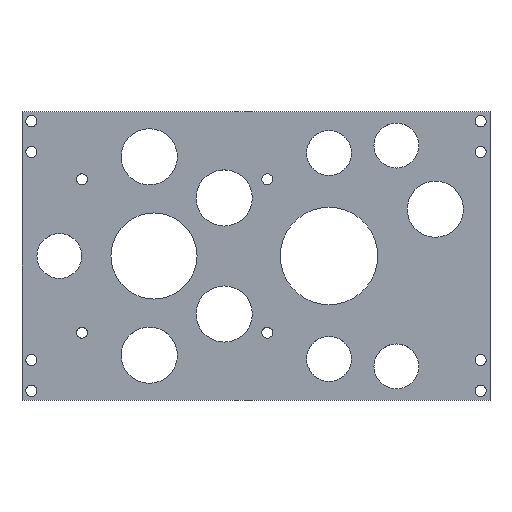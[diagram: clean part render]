
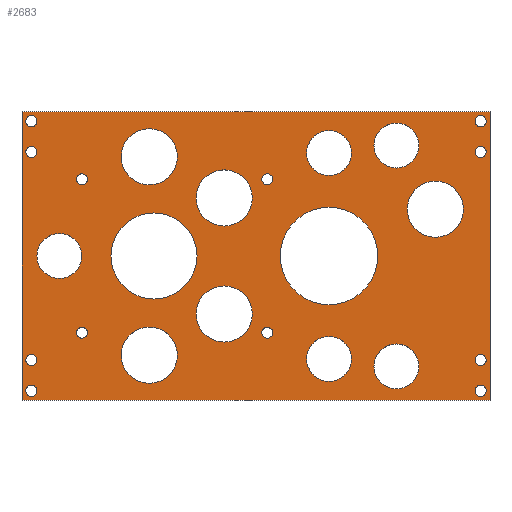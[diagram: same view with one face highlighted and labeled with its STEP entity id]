
A CAD part, top view. The second image highlights one B-rep face of the part: STEP entity #2683.
In plain terms, the highlighted planar face has unit normal (0, 0, 1).
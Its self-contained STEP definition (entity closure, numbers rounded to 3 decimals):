
#1003 = VERTEX_POINT('',#1004);
#1004 = CARTESIAN_POINT('',(62.5,38.5,8.));
#1010 = EDGE_CURVE('',#1003,#1011,#1013,.T.);
#1011 = VERTEX_POINT('',#1012);
#1012 = CARTESIAN_POINT('',(62.5,-38.5,8.));
#1013 = LINE('',#1014,#1015);
#1014 = CARTESIAN_POINT('',(62.5,50.,8.));
#1015 = VECTOR('',#1016,1.);
#1016 = DIRECTION('',(0.,-1.,0.));
#1033 = EDGE_CURVE('',#1034,#1011,#1036,.T.);
#1034 = VERTEX_POINT('',#1035);
#1035 = CARTESIAN_POINT('',(-62.5,-38.5,8.));
#1036 = LINE('',#1037,#1038);
#1037 = CARTESIAN_POINT('',(5.,-38.5,8.));
#1038 = VECTOR('',#1039,1.);
#1039 = DIRECTION('',(1.,0.,0.));
#1128 = EDGE_CURVE('',#1034,#1129,#1131,.T.);
#1129 = VERTEX_POINT('',#1130);
#1130 = CARTESIAN_POINT('',(-62.5,38.5,8.));
#1131 = LINE('',#1132,#1133);
#1132 = CARTESIAN_POINT('',(-62.5,-50.,8.));
#1133 = VECTOR('',#1134,1.);
#1134 = DIRECTION('',(0.,1.,0.));
#1389 = EDGE_CURVE('',#1003,#1129,#1390,.T.);
#1390 = LINE('',#1391,#1392);
#1391 = CARTESIAN_POINT('',(-5.,38.5,8.));
#1392 = VECTOR('',#1393,1.);
#1393 = DIRECTION('',(-1.,0.,0.));
#1403 = EDGE_CURVE('',#1404,#1404,#1406,.T.);
#1404 = VERTEX_POINT('',#1405);
#1405 = CARTESIAN_POINT('',(61.5,-36.,8.));
#1406 = CIRCLE('',#1407,1.5);
#1407 = AXIS2_PLACEMENT_3D('',#1408,#1409,#1410);
#1408 = CARTESIAN_POINT('',(60.,-36.,8.));
#1409 = DIRECTION('',(0.,0.,-1.));
#1410 = DIRECTION('',(1.,0.,0.));
#1429 = VERTEX_POINT('',#1430);
#1430 = CARTESIAN_POINT('',(43.5,-29.5,8.));
#1436 = EDGE_CURVE('',#1429,#1429,#1437,.T.);
#1437 = CIRCLE('',#1438,6.);
#1438 = AXIS2_PLACEMENT_3D('',#1439,#1440,#1441);
#1439 = CARTESIAN_POINT('',(37.5,-29.5,8.));
#1440 = DIRECTION('',(0.,0.,-1.));
#1441 = DIRECTION('',(1.,0.,0.));
#1454 = VERTEX_POINT('',#1455);
#1455 = CARTESIAN_POINT('',(61.5,-27.8,8.));
#1460 = EDGE_CURVE('',#1454,#1454,#1461,.T.);
#1461 = CIRCLE('',#1462,1.5);
#1462 = AXIS2_PLACEMENT_3D('',#1463,#1464,#1465);
#1463 = CARTESIAN_POINT('',(60.,-27.8,8.));
#1464 = DIRECTION('',(0.,0.,-1.));
#1465 = DIRECTION('',(1.,0.,0.));
#1574 = VERTEX_POINT('',#1575);
#1575 = CARTESIAN_POINT('',(25.5,-27.5,8.));
#1581 = EDGE_CURVE('',#1574,#1574,#1582,.T.);
#1582 = CIRCLE('',#1583,6.);
#1583 = AXIS2_PLACEMENT_3D('',#1584,#1585,#1586);
#1584 = CARTESIAN_POINT('',(19.5,-27.5,8.));
#1585 = DIRECTION('',(0.,0.,-1.));
#1586 = DIRECTION('',(1.,0.,0.));
#1695 = VERTEX_POINT('',#1696);
#1696 = CARTESIAN_POINT('',(-21.,-26.5,8.));
#1702 = EDGE_CURVE('',#1695,#1695,#1703,.T.);
#1703 = CIRCLE('',#1704,7.5);
#1704 = AXIS2_PLACEMENT_3D('',#1705,#1706,#1707);
#1705 = CARTESIAN_POINT('',(-28.5,-26.5,8.));
#1706 = DIRECTION('',(0.,0.,-1.));
#1707 = DIRECTION('',(1.,0.,0.));
#1718 = EDGE_CURVE('',#1719,#1719,#1721,.T.);
#1719 = VERTEX_POINT('',#1720);
#1720 = CARTESIAN_POINT('',(-58.5,-36.,8.));
#1721 = CIRCLE('',#1722,1.5);
#1722 = AXIS2_PLACEMENT_3D('',#1723,#1724,#1725);
#1723 = CARTESIAN_POINT('',(-60.,-36.,8.));
#1724 = DIRECTION('',(0.,0.,-1.));
#1725 = DIRECTION('',(1.,0.,0.));
#1840 = VERTEX_POINT('',#1841);
#1841 = CARTESIAN_POINT('',(-58.5,-27.8,8.));
#1846 = EDGE_CURVE('',#1840,#1840,#1847,.T.);
#1847 = CIRCLE('',#1848,1.5);
#1848 = AXIS2_PLACEMENT_3D('',#1849,#1850,#1851);
#1849 = CARTESIAN_POINT('',(-60.,-27.8,8.));
#1850 = DIRECTION('',(0.,0.,-1.));
#1851 = DIRECTION('',(1.,0.,0.));
#1960 = VERTEX_POINT('',#1961);
#1961 = CARTESIAN_POINT('',(-1.,-15.5,8.));
#1967 = EDGE_CURVE('',#1960,#1960,#1968,.T.);
#1968 = CIRCLE('',#1969,7.5);
#1969 = AXIS2_PLACEMENT_3D('',#1970,#1971,#1972);
#1970 = CARTESIAN_POINT('',(-8.5,-15.5,8.));
#1971 = DIRECTION('',(0.,0.,-1.));
#1972 = DIRECTION('',(1.,0.,0.));
#1985 = VERTEX_POINT('',#1986);
#1986 = CARTESIAN_POINT('',(55.4,12.5,8.));
#1992 = EDGE_CURVE('',#1985,#1985,#1993,.T.);
#1993 = CIRCLE('',#1994,7.5);
#1994 = AXIS2_PLACEMENT_3D('',#1995,#1996,#1997);
#1995 = CARTESIAN_POINT('',(47.9,12.5,8.));
#1996 = DIRECTION('',(0.,0.,-1.));
#1997 = DIRECTION('',(1.,0.,0.));
#2010 = VERTEX_POINT('',#2011);
#2011 = CARTESIAN_POINT('',(32.5,0.,8.));
#2017 = EDGE_CURVE('',#2010,#2010,#2018,.T.);
#2018 = CIRCLE('',#2019,13.);
#2019 = AXIS2_PLACEMENT_3D('',#2020,#2021,#2022);
#2020 = CARTESIAN_POINT('',(19.5,0.,8.));
#2021 = DIRECTION('',(0.,0.,-1.));
#2022 = DIRECTION('',(1.,0.,0.));
#2035 = VERTEX_POINT('',#2036);
#2036 = CARTESIAN_POINT('',(61.5,27.8,8.));
#2041 = EDGE_CURVE('',#2035,#2035,#2042,.T.);
#2042 = CIRCLE('',#2043,1.5);
#2043 = AXIS2_PLACEMENT_3D('',#2044,#2045,#2046);
#2044 = CARTESIAN_POINT('',(60.,27.8,8.));
#2045 = DIRECTION('',(0.,0.,-1.));
#2046 = DIRECTION('',(1.,0.,0.));
#2153 = EDGE_CURVE('',#2154,#2154,#2156,.T.);
#2154 = VERTEX_POINT('',#2155);
#2155 = CARTESIAN_POINT('',(61.5,36.,8.));
#2156 = CIRCLE('',#2157,1.5);
#2157 = AXIS2_PLACEMENT_3D('',#2158,#2159,#2160);
#2158 = CARTESIAN_POINT('',(60.,36.,8.));
#2159 = DIRECTION('',(0.,0.,-1.));
#2160 = DIRECTION('',(1.,0.,0.));
#2179 = VERTEX_POINT('',#2180);
#2180 = CARTESIAN_POINT('',(43.5,29.5,8.));
#2186 = EDGE_CURVE('',#2179,#2179,#2187,.T.);
#2187 = CIRCLE('',#2188,6.);
#2188 = AXIS2_PLACEMENT_3D('',#2189,#2190,#2191);
#2189 = CARTESIAN_POINT('',(37.5,29.5,8.));
#2190 = DIRECTION('',(0.,0.,-1.));
#2191 = DIRECTION('',(1.,0.,0.));
#2204 = VERTEX_POINT('',#2205);
#2205 = CARTESIAN_POINT('',(25.5,27.5,8.));
#2211 = EDGE_CURVE('',#2204,#2204,#2212,.T.);
#2212 = CIRCLE('',#2213,6.);
#2213 = AXIS2_PLACEMENT_3D('',#2214,#2215,#2216);
#2214 = CARTESIAN_POINT('',(19.5,27.5,8.));
#2215 = DIRECTION('',(0.,0.,-1.));
#2216 = DIRECTION('',(1.,0.,0.));
#2325 = VERTEX_POINT('',#2326);
#2326 = CARTESIAN_POINT('',(-15.75,0.,8.));
#2332 = EDGE_CURVE('',#2325,#2325,#2333,.T.);
#2333 = CIRCLE('',#2334,11.5);
#2334 = AXIS2_PLACEMENT_3D('',#2335,#2336,#2337);
#2335 = CARTESIAN_POINT('',(-27.25,0.,8.));
#2336 = DIRECTION('',(0.,0.,-1.));
#2337 = DIRECTION('',(1.,0.,0.));
#2350 = VERTEX_POINT('',#2351);
#2351 = CARTESIAN_POINT('',(-1.,15.5,8.));
#2357 = EDGE_CURVE('',#2350,#2350,#2358,.T.);
#2358 = CIRCLE('',#2359,7.5);
#2359 = AXIS2_PLACEMENT_3D('',#2360,#2361,#2362);
#2360 = CARTESIAN_POINT('',(-8.5,15.5,8.));
#2361 = DIRECTION('',(0.,0.,-1.));
#2362 = DIRECTION('',(1.,0.,0.));
#2375 = VERTEX_POINT('',#2376);
#2376 = CARTESIAN_POINT('',(-46.5,0.,8.));
#2382 = EDGE_CURVE('',#2375,#2375,#2383,.T.);
#2383 = CIRCLE('',#2384,6.);
#2384 = AXIS2_PLACEMENT_3D('',#2385,#2386,#2387);
#2385 = CARTESIAN_POINT('',(-52.5,0.,8.));
#2386 = DIRECTION('',(0.,0.,-1.));
#2387 = DIRECTION('',(1.,0.,0.));
#2400 = VERTEX_POINT('',#2401);
#2401 = CARTESIAN_POINT('',(-21.,26.5,8.));
#2407 = EDGE_CURVE('',#2400,#2400,#2408,.T.);
#2408 = CIRCLE('',#2409,7.5);
#2409 = AXIS2_PLACEMENT_3D('',#2410,#2411,#2412);
#2410 = CARTESIAN_POINT('',(-28.5,26.5,8.));
#2411 = DIRECTION('',(0.,0.,-1.));
#2412 = DIRECTION('',(1.,0.,0.));
#2617 = VERTEX_POINT('',#2618);
#2618 = CARTESIAN_POINT('',(-58.5,27.8,8.));
#2623 = EDGE_CURVE('',#2617,#2617,#2624,.T.);
#2624 = CIRCLE('',#2625,1.5);
#2625 = AXIS2_PLACEMENT_3D('',#2626,#2627,#2628);
#2626 = CARTESIAN_POINT('',(-60.,27.8,8.));
#2627 = DIRECTION('',(0.,0.,-1.));
#2628 = DIRECTION('',(1.,0.,0.));
#2639 = EDGE_CURVE('',#2640,#2640,#2642,.T.);
#2640 = VERTEX_POINT('',#2641);
#2641 = CARTESIAN_POINT('',(-58.5,36.,8.));
#2642 = CIRCLE('',#2643,1.5);
#2643 = AXIS2_PLACEMENT_3D('',#2644,#2645,#2646);
#2644 = CARTESIAN_POINT('',(-60.,36.,8.));
#2645 = DIRECTION('',(0.,0.,-1.));
#2646 = DIRECTION('',(1.,0.,0.));
#2683 = ADVANCED_FACE('',(#2684,#2690,#2693,#2696,#2707,#2710,#2713,
    #2724,#2727,#2730,#2733,#2736,#2739,#2742,#2745,#2756,#2759,#2762,
    #2765,#2768,#2771,#2782,#2785,#2788,#2791),#2794,.T.);
#2684 = FACE_BOUND('',#2685,.T.);
#2685 = EDGE_LOOP('',(#2686,#2687,#2688,#2689));
#2686 = ORIENTED_EDGE('',*,*,#1010,.F.);
#2687 = ORIENTED_EDGE('',*,*,#1389,.T.);
#2688 = ORIENTED_EDGE('',*,*,#1128,.F.);
#2689 = ORIENTED_EDGE('',*,*,#1033,.T.);
#2690 = FACE_BOUND('',#2691,.T.);
#2691 = EDGE_LOOP('',(#2692));
#2692 = ORIENTED_EDGE('',*,*,#1718,.T.);
#2693 = FACE_BOUND('',#2694,.T.);
#2694 = EDGE_LOOP('',(#2695));
#2695 = ORIENTED_EDGE('',*,*,#1846,.T.);
#2696 = FACE_BOUND('',#2697,.T.);
#2697 = EDGE_LOOP('',(#2698));
#2698 = ORIENTED_EDGE('',*,*,#2699,.T.);
#2699 = EDGE_CURVE('',#2700,#2700,#2702,.T.);
#2700 = VERTEX_POINT('',#2701);
#2701 = CARTESIAN_POINT('',(-45.025,-20.5,8.));
#2702 = CIRCLE('',#2703,1.475);
#2703 = AXIS2_PLACEMENT_3D('',#2704,#2705,#2706);
#2704 = CARTESIAN_POINT('',(-46.5,-20.5,8.));
#2705 = DIRECTION('',(0.,0.,-1.));
#2706 = DIRECTION('',(1.,0.,0.));
#2707 = FACE_BOUND('',#2708,.T.);
#2708 = EDGE_LOOP('',(#2709));
#2709 = ORIENTED_EDGE('',*,*,#1702,.T.);
#2710 = FACE_BOUND('',#2711,.T.);
#2711 = EDGE_LOOP('',(#2712));
#2712 = ORIENTED_EDGE('',*,*,#1967,.T.);
#2713 = FACE_BOUND('',#2714,.T.);
#2714 = EDGE_LOOP('',(#2715));
#2715 = ORIENTED_EDGE('',*,*,#2716,.T.);
#2716 = EDGE_CURVE('',#2717,#2717,#2719,.T.);
#2717 = VERTEX_POINT('',#2718);
#2718 = CARTESIAN_POINT('',(4.475,-20.5,8.));
#2719 = CIRCLE('',#2720,1.475);
#2720 = AXIS2_PLACEMENT_3D('',#2721,#2722,#2723);
#2721 = CARTESIAN_POINT('',(3.,-20.5,8.));
#2722 = DIRECTION('',(0.,0.,-1.));
#2723 = DIRECTION('',(1.,0.,0.));
#2724 = FACE_BOUND('',#2725,.T.);
#2725 = EDGE_LOOP('',(#2726));
#2726 = ORIENTED_EDGE('',*,*,#1581,.T.);
#2727 = FACE_BOUND('',#2728,.T.);
#2728 = EDGE_LOOP('',(#2729));
#2729 = ORIENTED_EDGE('',*,*,#1436,.T.);
#2730 = FACE_BOUND('',#2731,.T.);
#2731 = EDGE_LOOP('',(#2732));
#2732 = ORIENTED_EDGE('',*,*,#1403,.T.);
#2733 = FACE_BOUND('',#2734,.T.);
#2734 = EDGE_LOOP('',(#2735));
#2735 = ORIENTED_EDGE('',*,*,#1460,.T.);
#2736 = FACE_BOUND('',#2737,.T.);
#2737 = EDGE_LOOP('',(#2738));
#2738 = ORIENTED_EDGE('',*,*,#2382,.T.);
#2739 = FACE_BOUND('',#2740,.T.);
#2740 = EDGE_LOOP('',(#2741));
#2741 = ORIENTED_EDGE('',*,*,#2332,.T.);
#2742 = FACE_BOUND('',#2743,.T.);
#2743 = EDGE_LOOP('',(#2744));
#2744 = ORIENTED_EDGE('',*,*,#2357,.T.);
#2745 = FACE_BOUND('',#2746,.T.);
#2746 = EDGE_LOOP('',(#2747));
#2747 = ORIENTED_EDGE('',*,*,#2748,.T.);
#2748 = EDGE_CURVE('',#2749,#2749,#2751,.T.);
#2749 = VERTEX_POINT('',#2750);
#2750 = CARTESIAN_POINT('',(-45.025,20.5,8.));
#2751 = CIRCLE('',#2752,1.475);
#2752 = AXIS2_PLACEMENT_3D('',#2753,#2754,#2755);
#2753 = CARTESIAN_POINT('',(-46.5,20.5,8.));
#2754 = DIRECTION('',(0.,0.,-1.));
#2755 = DIRECTION('',(1.,0.,0.));
#2756 = FACE_BOUND('',#2757,.T.);
#2757 = EDGE_LOOP('',(#2758));
#2758 = ORIENTED_EDGE('',*,*,#2623,.T.);
#2759 = FACE_BOUND('',#2760,.T.);
#2760 = EDGE_LOOP('',(#2761));
#2761 = ORIENTED_EDGE('',*,*,#2639,.T.);
#2762 = FACE_BOUND('',#2763,.T.);
#2763 = EDGE_LOOP('',(#2764));
#2764 = ORIENTED_EDGE('',*,*,#2407,.T.);
#2765 = FACE_BOUND('',#2766,.T.);
#2766 = EDGE_LOOP('',(#2767));
#2767 = ORIENTED_EDGE('',*,*,#2017,.T.);
#2768 = FACE_BOUND('',#2769,.T.);
#2769 = EDGE_LOOP('',(#2770));
#2770 = ORIENTED_EDGE('',*,*,#1992,.T.);
#2771 = FACE_BOUND('',#2772,.T.);
#2772 = EDGE_LOOP('',(#2773));
#2773 = ORIENTED_EDGE('',*,*,#2774,.T.);
#2774 = EDGE_CURVE('',#2775,#2775,#2777,.T.);
#2775 = VERTEX_POINT('',#2776);
#2776 = CARTESIAN_POINT('',(4.475,20.5,8.));
#2777 = CIRCLE('',#2778,1.475);
#2778 = AXIS2_PLACEMENT_3D('',#2779,#2780,#2781);
#2779 = CARTESIAN_POINT('',(3.,20.5,8.));
#2780 = DIRECTION('',(0.,0.,-1.));
#2781 = DIRECTION('',(1.,0.,0.));
#2782 = FACE_BOUND('',#2783,.T.);
#2783 = EDGE_LOOP('',(#2784));
#2784 = ORIENTED_EDGE('',*,*,#2211,.T.);
#2785 = FACE_BOUND('',#2786,.T.);
#2786 = EDGE_LOOP('',(#2787));
#2787 = ORIENTED_EDGE('',*,*,#2041,.T.);
#2788 = FACE_BOUND('',#2789,.T.);
#2789 = EDGE_LOOP('',(#2790));
#2790 = ORIENTED_EDGE('',*,*,#2186,.T.);
#2791 = FACE_BOUND('',#2792,.T.);
#2792 = EDGE_LOOP('',(#2793));
#2793 = ORIENTED_EDGE('',*,*,#2153,.T.);
#2794 = PLANE('',#2795);
#2795 = AXIS2_PLACEMENT_3D('',#2796,#2797,#2798);
#2796 = CARTESIAN_POINT('',(0.,0.,8.));
#2797 = DIRECTION('',(0.,0.,1.));
#2798 = DIRECTION('',(1.,0.,0.));
